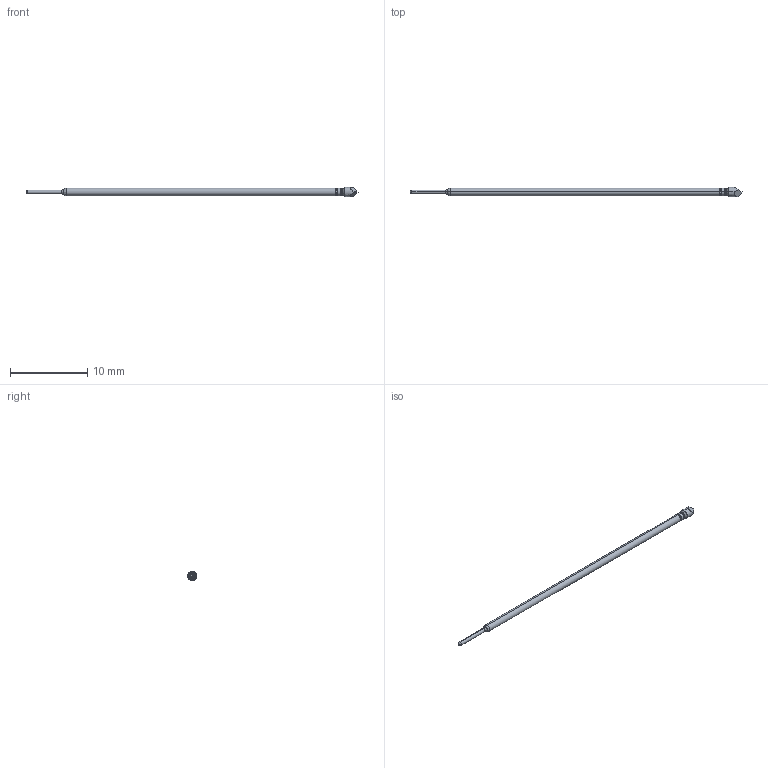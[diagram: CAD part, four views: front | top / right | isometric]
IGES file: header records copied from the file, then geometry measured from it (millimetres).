
Start section: SolidWorks IGES file using analytic representation for surfaces
Global section: file name: C:\Documents and Settings\mrumschlag\Desktop\changes\new\test\T FULL.IGS; native system: SolidWorks 2011; preprocessor: SolidWorks 2011; author: mrumschlag; date: 110630.142316; units: inch
Bounding box: 42.93 x 1.19 x 1.19 mm (x, y, z)
Surface area: 124.1 mm2 (no closed solid volume)
Topology: 0 solids, 0 shells, 28 faces, 182 edges, 180 vertices
Faces by surface type: revolution 16, bspline 12
